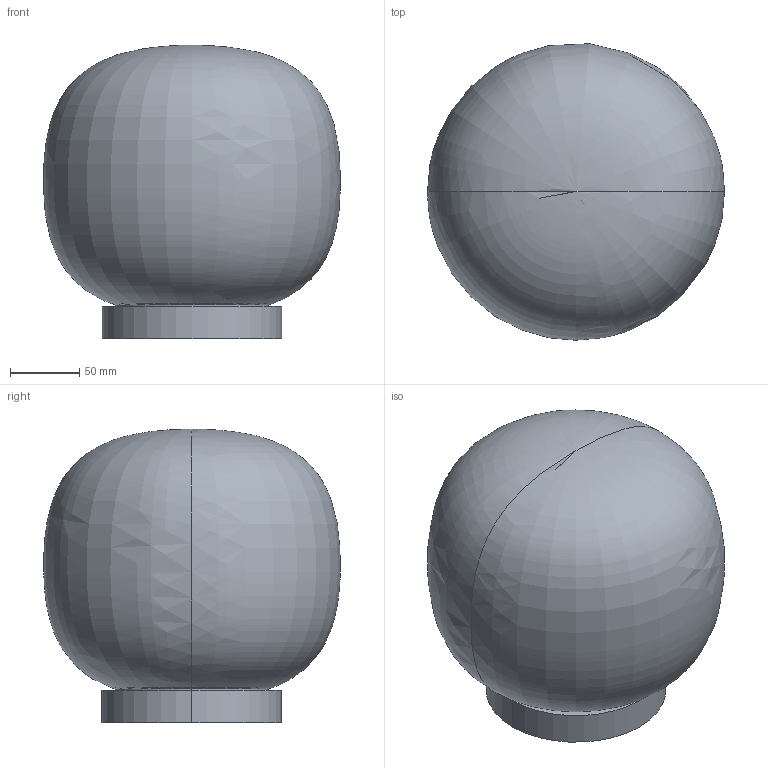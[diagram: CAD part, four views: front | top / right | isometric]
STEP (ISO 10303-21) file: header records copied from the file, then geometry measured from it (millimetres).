
FILE_DESCRIPTION(/* description */ (''),/* implementation_level */ '2;1');
FILE_NAME(/* name */ '68610.step',/* time_stamp */ '2024-04-10T11:40:40+02:00',/* author */ ('RenataManzini'),/* organization */ (''),/* preprocessor_version */ 'ST-DEVELOPER v20',/* originating_system */ 'AutoCAD Mechanical',/* authorisation */ '');
FILE_SCHEMA (('AUTOMOTIVE_DESIGN { 1 0 10303 214 3 1 1 }'));
Length unit declared in the file: millimetre
Products named in the file (2): Product; Pieza_68610 - Lamp Holder-696080-_3D_
Assembly tree (1 placements, depth 2):
  Product
    Pieza_68610 - Lamp Holder-696080-_3D_
Bounding box: 215.22 x 214.77 x 212.77 mm (x, y, z)
Volume: 456422.2 mm3; surface area: 343787.5 mm2
Topology: 5 solids, 5 shells, 96 faces, 244 edges, 154 vertices
Faces by surface type: cylinder 46, plane 32, torus 8, cone 6, bspline 4
Entity records: 7115 total; most frequent: CARTESIAN_POINT 4771, ORIENTED_EDGE 480, DIRECTION 466, EDGE_CURVE 240, AXIS2_PLACEMENT_3D 183, VERTEX_POINT 154, EDGE_LOOP 114, LINE 100
